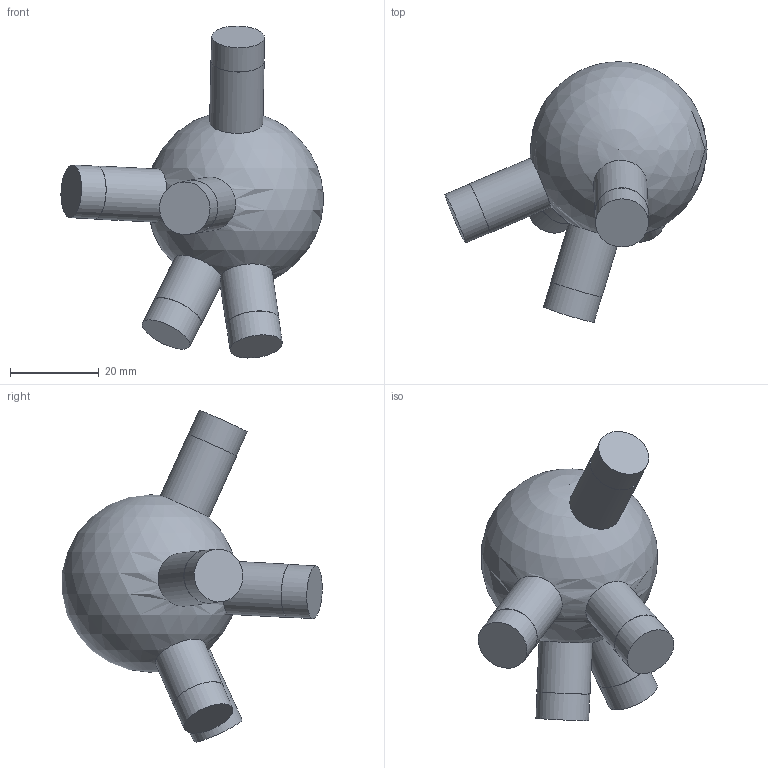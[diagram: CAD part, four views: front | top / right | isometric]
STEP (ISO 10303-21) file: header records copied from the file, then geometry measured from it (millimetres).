
FILE_DESCRIPTION(('Open CASCADE Model'),'2;1');
FILE_NAME('Open CASCADE Shape Model','2026-10-21T12:47:57',('Author'),( 'Open CASCADE'),'Open CASCADE STEP processor 7.9','Open CASCADE 7.9' ,'Unknown');
FILE_SCHEMA(('AUTOMOTIVE_DESIGN { 1 0 10303 214 1 1 1 1 }'));
Length unit declared in the file: millimetre
Products named in the file (1): Open CASCADE STEP translator 7.9 110
Bounding box: 59.09 x 58.73 x 74.86 mm (x, y, z)
Volume: 44178.7 mm3; surface area: 8660.4 mm2
Topology: 1 solids, 1 shells, 21 faces, 37 edges, 25 vertices
Faces by surface type: cylinder 10, plane 10, sphere 1
Full cylindrical faces by diameter (mm): 11.9 x5, 12 x5
Entity records: 1533 total; most frequent: CARTESIAN_POINT 747, DIRECTION 159, ORIENTED_EDGE 68, PCURVE 68, DEFINITIONAL_REPRESENTATION 68, LINE 52, VECTOR 52, AXIS2_PLACEMENT_3D 46
